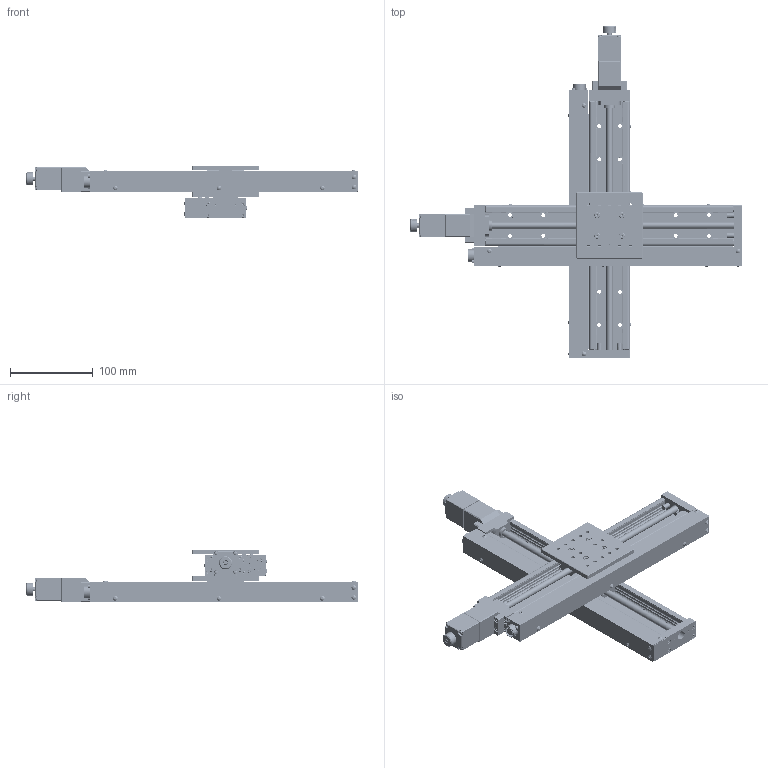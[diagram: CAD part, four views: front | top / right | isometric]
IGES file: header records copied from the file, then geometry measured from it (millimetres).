
Start section: ------------------------------------------------------------------------
Bounding box: 401 x 401 x 64 mm (x, y, z)
Surface area: 448629.3 mm2 (no closed solid volume)
Topology: 0 solids, 0 shells, 5671 faces, 26736 edges, 26386 vertices
Faces by surface type: bspline 5671
